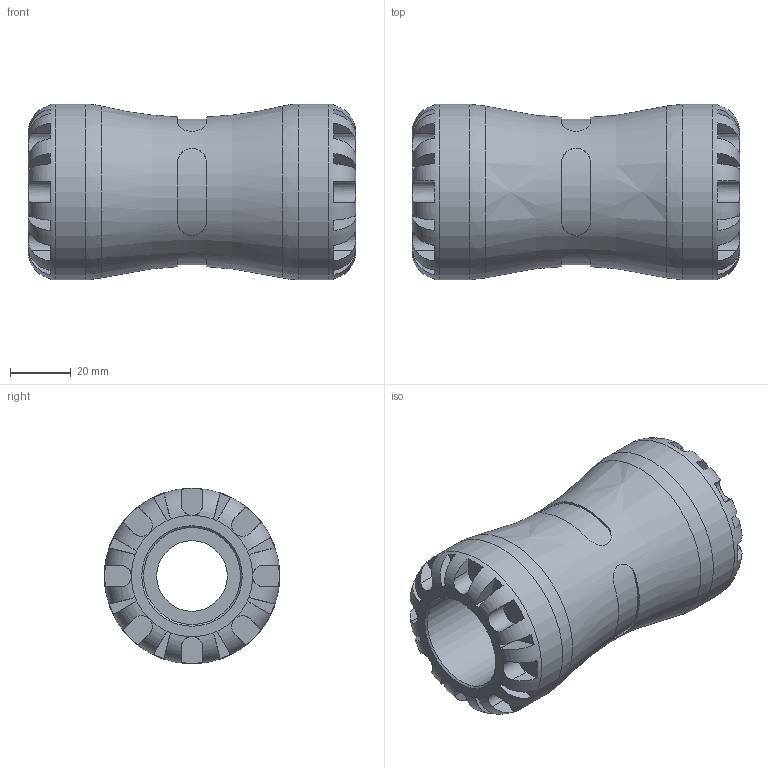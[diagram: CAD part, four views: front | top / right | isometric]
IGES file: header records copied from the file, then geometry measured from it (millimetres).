
Global section: file name: 1001C0032028_1901C0032028.ipt; native system: Autodesk Inventor 2015; preprocessor: unknown; author: KIM; date: 20170122.100501; units: millimetre
Bounding box: 108 x 58 x 58 mm (x, y, z)
Volume: 163784.2 mm3; surface area: 34831.5 mm2
Topology: 1 solids, 1 shells, 164 faces, 427 edges, 270 vertices
Faces by surface type: plane 108, revolution 34, cylinder 22
Full cylindrical faces by diameter (mm): 58 x2
